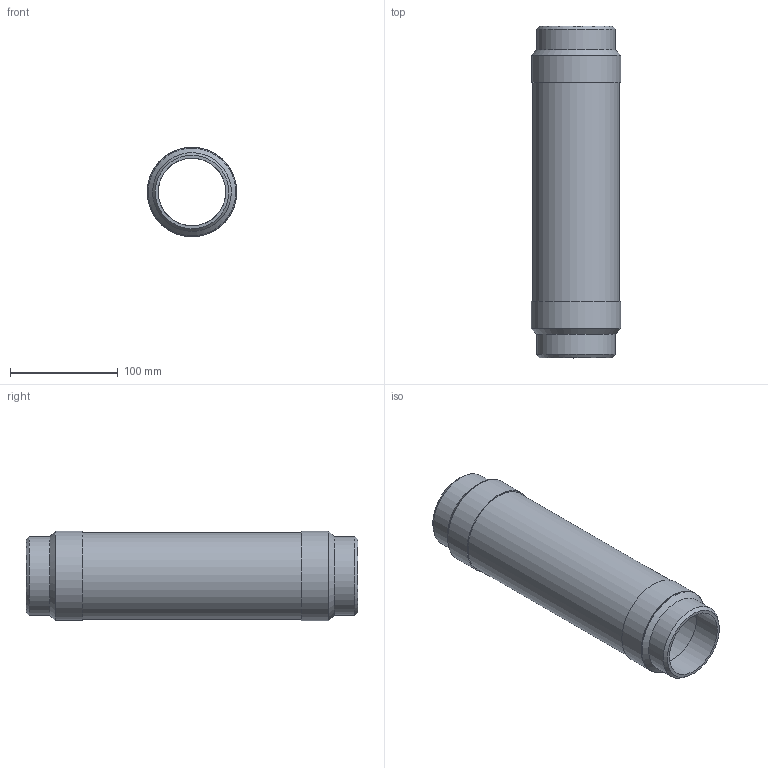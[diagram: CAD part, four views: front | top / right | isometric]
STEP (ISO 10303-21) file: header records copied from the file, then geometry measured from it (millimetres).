
FILE_DESCRIPTION(/* description */ (''),/* implementation_level */ '2;1');
FILE_NAME(/* name */ 'C:\001_Work\Designs\CSAWN\CSAWN-2.5x12.125.stp',/* time_stamp */ '2016-06-04T18:23:39-04:00',/* author */ ('rramoutar'),/* organization */ ('Mason Industries Inc.'),/* preprocessor_version */ 'ST-DEVELOPER v15.6',/* originating_system */ 'Autodesk Inventor 2015',/* authorisation */ '');
FILE_SCHEMA (('CONFIG_CONTROL_DESIGN'));
Length unit declared in the file: inch
Products named in the file (1): CSAWN-2.5x12.125
Bounding box: 82.96 x 307.98 x 82.96 mm (x, y, z)
Volume: 105049.2 mm3; surface area: 185706 mm2
Topology: 5 solids, 5 shells, 24 faces, 40 edges, 26 vertices
Faces by surface type: cylinder 10, plane 10, cone 4
Full cylindrical faces by diameter (mm): 62.713 x2, 73.025 x2, 79.756 x1, 80.569 x3, 82.95 x2
Entity records: 564 total; most frequent: DIRECTION 98, CARTESIAN_POINT 73, AXIS2_PLACEMENT_3D 49, EDGE_LOOP 48, ORIENTED_EDGE 48, STYLED_ITEM 29, FACE_BOUND 24, FACE_OUTER_BOUND 24
